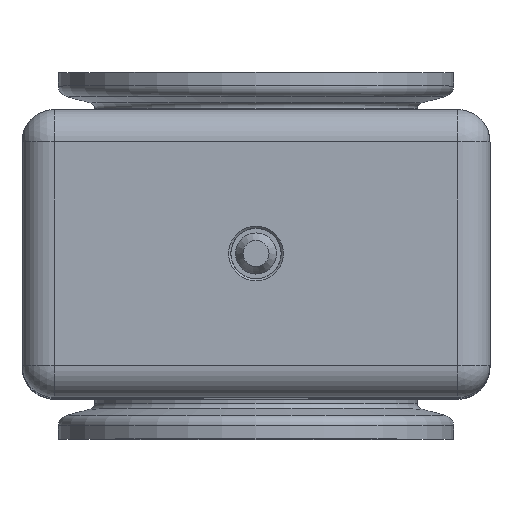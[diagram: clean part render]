
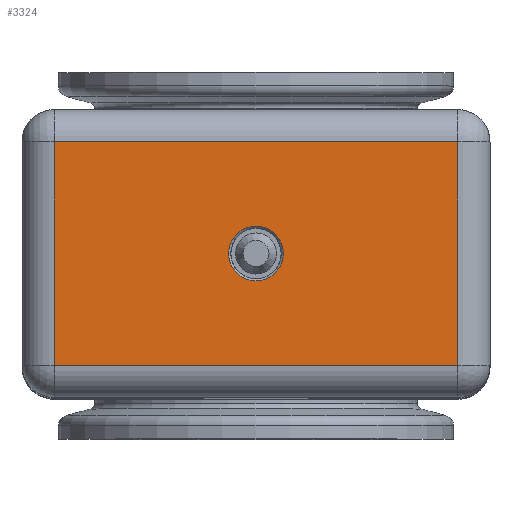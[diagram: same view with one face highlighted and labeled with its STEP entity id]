
A CAD part, top view. The second image highlights one B-rep face of the part: STEP entity #3324.
In plain terms, the highlighted planar face has unit normal (0, 0, 1) as drawn and (1, 0, 0) by its records, which use the part's own axes.
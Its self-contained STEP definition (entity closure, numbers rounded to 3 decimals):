
#3032=CIRCLE('',#11701,3.804);
#3324=ADVANCED_FACE('',(#4285,#4286),#3811,.F.);
#3811=PLANE('',#11702);
#4285=FACE_BOUND('',#4787,.T.);
#4286=FACE_BOUND('',#4788,.T.);
#4787=EDGE_LOOP('',(#6336));
#4788=EDGE_LOOP('',(#6337,#6338,#6339,#6340));
#6336=ORIENTED_EDGE('',*,*,#9449,.T.);
#6337=ORIENTED_EDGE('',*,*,#9450,.T.);
#6338=ORIENTED_EDGE('',*,*,#9451,.T.);
#6339=ORIENTED_EDGE('',*,*,#9452,.F.);
#6340=ORIENTED_EDGE('',*,*,#9453,.F.);
#8427=VERTEX_POINT('',#17126);
#8428=VERTEX_POINT('',#17128);
#8429=VERTEX_POINT('',#17129);
#8430=VERTEX_POINT('',#17131);
#8431=VERTEX_POINT('',#17133);
#9449=EDGE_CURVE('',#8427,#8427,#3032,.T.);
#9450=EDGE_CURVE('',#8428,#8429,#10372,.T.);
#9451=EDGE_CURVE('',#8429,#8430,#10373,.T.);
#9452=EDGE_CURVE('',#8431,#8430,#10374,.T.);
#9453=EDGE_CURVE('',#8428,#8431,#10375,.T.);
#10372=LINE('',#17127,#10993);
#10373=LINE('',#17130,#10994);
#10374=LINE('',#17132,#10995);
#10375=LINE('',#17134,#10996);
#10993=VECTOR('',#13243,1.);
#10994=VECTOR('',#13244,1.);
#10995=VECTOR('',#13245,1.);
#10996=VECTOR('',#13246,1.);
#11701=AXIS2_PLACEMENT_3D('',#17125,#13241,#13242);
#11702=AXIS2_PLACEMENT_3D('',#17135,#13247,#13248);
#13241=DIRECTION('',(-1.,0.,0.));
#13242=DIRECTION('',(0.,0.,1.));
#13243=DIRECTION('',(0.,1.,0.));
#13244=DIRECTION('',(0.,0.,1.));
#13245=DIRECTION('',(0.,1.,0.));
#13246=DIRECTION('',(0.,0.,1.));
#13247=DIRECTION('',(-1.,0.,0.));
#13248=DIRECTION('',(0.,0.,1.));
#17125=CARTESIAN_POINT('',(107.55,0.,0.));
#17126=CARTESIAN_POINT('',(107.55,0.,3.804));
#17127=CARTESIAN_POINT('',(107.55,15.5,-28.));
#17128=CARTESIAN_POINT('',(107.55,-15.5,-28.));
#17129=CARTESIAN_POINT('',(107.55,15.5,-28.));
#17130=CARTESIAN_POINT('',(107.55,15.5,0.));
#17131=CARTESIAN_POINT('',(107.55,15.5,28.));
#17132=CARTESIAN_POINT('',(107.55,15.5,28.));
#17133=CARTESIAN_POINT('',(107.55,-15.5,28.));
#17134=CARTESIAN_POINT('',(107.55,-15.5,0.));
#17135=CARTESIAN_POINT('',(107.55,15.5,-28.));
